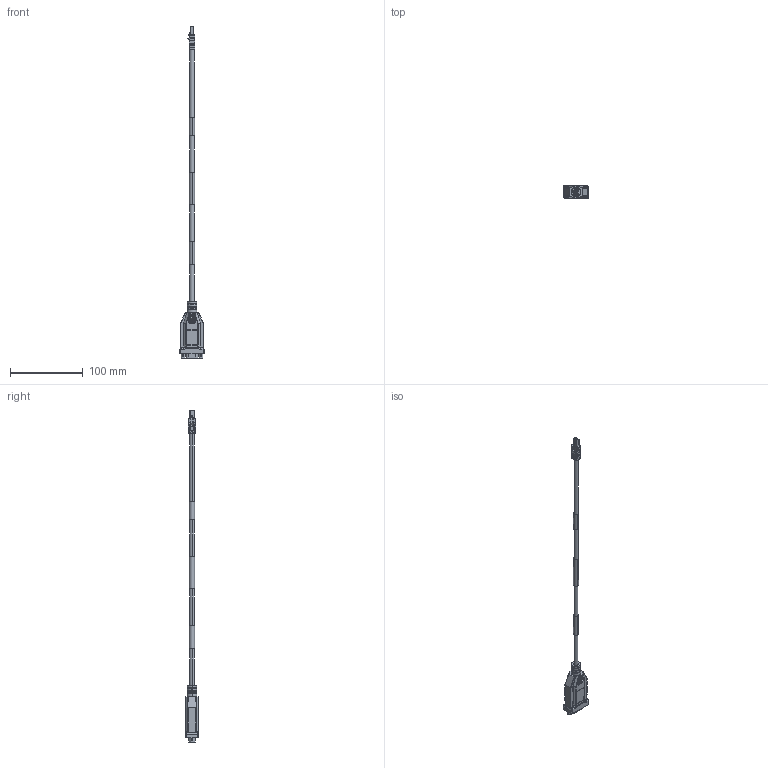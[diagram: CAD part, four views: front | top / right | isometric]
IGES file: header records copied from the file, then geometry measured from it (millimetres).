
Start section:  PTC IGES file: cu_ni-xnet-transc-cable_18in.igs
Global section: file name: cu_ni-xnet-transc-cable_18in.igs; native system: Creo Parametric by Parametric Technology Corporation; preprocessor: 2014000; author: btrammel; organization: Unknown; date: 20141029.103645; units: inch
Bounding box: 34.42 x 17.88 x 457.25 mm (x, y, z)
Surface area: 18299 mm2 (no closed solid volume)
Topology: 0 solids, 0 shells, 877 faces, 4746 edges, 4726 vertices
Faces by surface type: bspline 557, revolution 320
